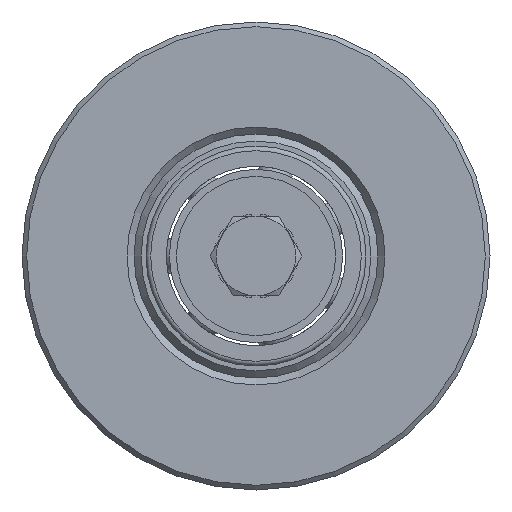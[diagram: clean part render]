
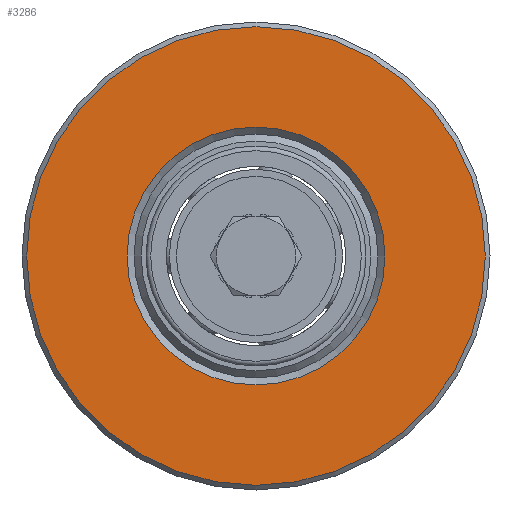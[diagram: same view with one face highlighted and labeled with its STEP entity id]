
A CAD part, left-side view. The second image highlights one B-rep face of the part: STEP entity #3286.
In plain terms, the highlighted planar face has unit normal (-1, 0, 0).
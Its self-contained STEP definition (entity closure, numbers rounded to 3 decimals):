
#525=PLANE('',#3521);
#643=FACE_BOUND('',#945,.T.);
#728=FACE_OUTER_BOUND('',#944,.T.);
#944=EDGE_LOOP('',(#2276));
#945=EDGE_LOOP('',(#2277));
#1208=CIRCLE('',#3520,27.55);
#1209=CIRCLE('',#3522,49.);
#1441=VERTEX_POINT('',#5118);
#1442=VERTEX_POINT('',#5121);
#1779=EDGE_CURVE('',#1441,#1441,#1208,.T.);
#1780=EDGE_CURVE('',#1442,#1442,#1209,.T.);
#2276=ORIENTED_EDGE('',*,*,#1780,.F.);
#2277=ORIENTED_EDGE('',*,*,#1779,.T.);
#3286=ADVANCED_FACE('',(#728,#643),#525,.T.);
#3520=AXIS2_PLACEMENT_3D('',#5119,#4020,#4021);
#3521=AXIS2_PLACEMENT_3D('',#5120,#4022,#4023);
#3522=AXIS2_PLACEMENT_3D('',#5122,#4024,#4025);
#4020=DIRECTION('center_axis',(1.,0.,0.));
#4021=DIRECTION('ref_axis',(0.,1.,0.));
#4022=DIRECTION('center_axis',(-1.,0.,0.));
#4023=DIRECTION('ref_axis',(0.,0.,1.));
#4024=DIRECTION('center_axis',(1.,0.,0.));
#4025=DIRECTION('ref_axis',(0.,1.,0.));
#5118=CARTESIAN_POINT('',(-17.5,27.55,0.));
#5119=CARTESIAN_POINT('Origin',(-17.5,0.,0.));
#5120=CARTESIAN_POINT('Origin',(-17.5,38.275,0.));
#5121=CARTESIAN_POINT('',(-17.5,49.,0.));
#5122=CARTESIAN_POINT('Origin',(-17.5,0.,0.));
